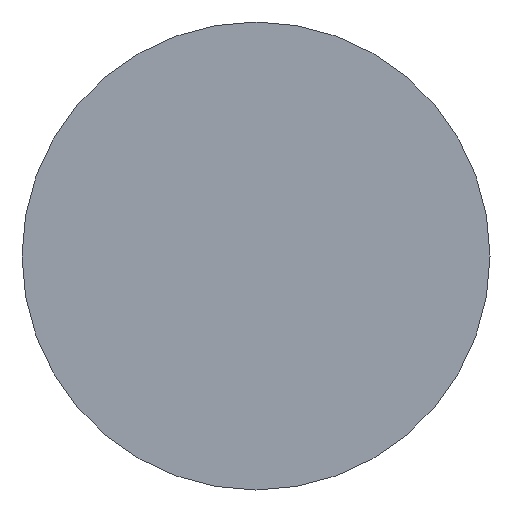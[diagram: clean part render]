
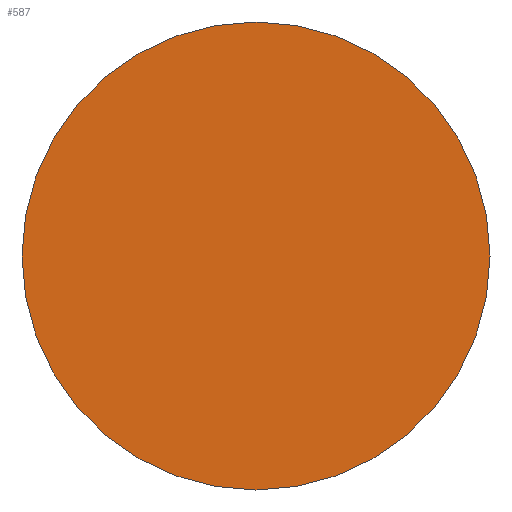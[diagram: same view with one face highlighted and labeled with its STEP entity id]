
A CAD part, left-side view. The second image highlights one B-rep face of the part: STEP entity #587.
In plain terms, the highlighted planar face has unit normal (-1, 0, 0).
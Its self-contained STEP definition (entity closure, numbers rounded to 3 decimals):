
#5 = DIRECTION ( 'NONE',  ( -1., 0., 0. ) ) ;
#23 = CARTESIAN_POINT ( 'NONE',  ( 0., 0., 0. ) ) ;
#28 = CARTESIAN_POINT ( 'NONE',  ( 0., 0., 5. ) ) ;
#120 = VERTEX_POINT ( 'NONE', #574 ) ;
#137 = DIRECTION ( 'NONE',  ( -1., 0., 0. ) ) ;
#206 = ORIENTED_EDGE ( 'NONE', *, *, #332, .T. ) ;
#213 = DIRECTION ( 'NONE',  ( 0., 0., 1. ) ) ;
#234 = VERTEX_POINT ( 'NONE', #28 ) ;
#242 = DIRECTION ( 'NONE',  ( 0., 0., 1. ) ) ;
#281 = CARTESIAN_POINT ( 'NONE',  ( 0., 0., 0. ) ) ;
#330 = CIRCLE ( 'NONE', #548, 5. ) ;
#332 = EDGE_CURVE ( 'NONE', #120, #234, #330, .T. ) ;
#336 = FACE_OUTER_BOUND ( 'NONE', #432, .T. ) ;
#345 = ORIENTED_EDGE ( 'NONE', *, *, #673, .T. ) ;
#432 = EDGE_LOOP ( 'NONE', ( #345, #206 ) ) ;
#442 = DIRECTION ( 'NONE',  ( 0., 0., -1. ) ) ;
#536 = AXIS2_PLACEMENT_3D ( 'NONE', #23, #677, #442 ) ;
#548 = AXIS2_PLACEMENT_3D ( 'NONE', #281, #137, #242 ) ;
#555 = CIRCLE ( 'NONE', #678, 5. ) ;
#574 = CARTESIAN_POINT ( 'NONE',  ( 0., 0., -5. ) ) ;
#587 = ADVANCED_FACE ( 'NONE', ( #336 ), #637, .F. ) ;
#598 = CARTESIAN_POINT ( 'NONE',  ( 0., 0., 0. ) ) ;
#637 = PLANE ( 'NONE',  #536 ) ;
#673 = EDGE_CURVE ( 'NONE', #234, #120, #555, .T. ) ;
#677 = DIRECTION ( 'NONE',  ( 1., 0., 0. ) ) ;
#678 = AXIS2_PLACEMENT_3D ( 'NONE', #598, #5, #213 ) ;
